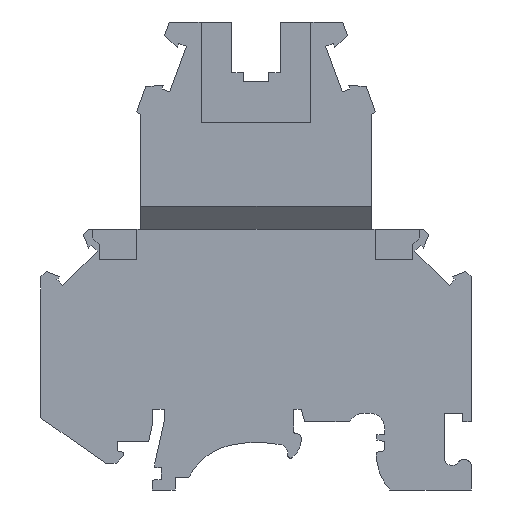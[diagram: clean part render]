
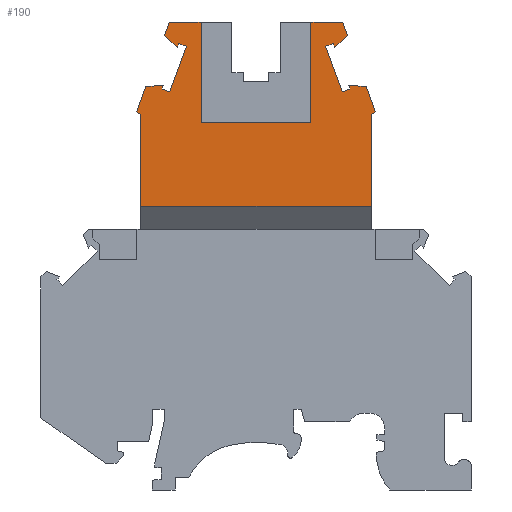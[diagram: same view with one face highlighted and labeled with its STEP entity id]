
A CAD part, left-side view. The second image highlights one B-rep face of the part: STEP entity #190.
In plain terms, the highlighted planar face has unit normal (-1, 0, 0).
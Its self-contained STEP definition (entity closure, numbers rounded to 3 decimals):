
#190=ADVANCED_FACE('',(#516),#517,.F.);
#516=FACE_OUTER_BOUND('',#934,.T.);
#517=PLANE('',#935);
#934=EDGE_LOOP('',(#2161,#2162,#2163,#2164,#2165,#2166,#2167,#2168,#2169,#2170,#2171,#2172,#2173,#2174,#2175,#2176,#2177,#2178,#2179,#2180,#2181,#2182,#2183,#2184,#2185,#2186,#2187,#2188));
#935=AXIS2_PLACEMENT_3D('',#2189,#2190,#2191);
#2161=ORIENTED_EDGE('',*,*,#3215,.T.);
#2162=ORIENTED_EDGE('',*,*,#3273,.F.);
#2163=ORIENTED_EDGE('',*,*,#3289,.F.);
#2164=ORIENTED_EDGE('',*,*,#3359,.F.);
#2165=ORIENTED_EDGE('',*,*,#3360,.F.);
#2166=ORIENTED_EDGE('',*,*,#3361,.F.);
#2167=ORIENTED_EDGE('',*,*,#3362,.F.);
#2168=ORIENTED_EDGE('',*,*,#3363,.F.);
#2169=ORIENTED_EDGE('',*,*,#3364,.F.);
#2170=ORIENTED_EDGE('',*,*,#3365,.F.);
#2171=ORIENTED_EDGE('',*,*,#3366,.F.);
#2172=ORIENTED_EDGE('',*,*,#3367,.F.);
#2173=ORIENTED_EDGE('',*,*,#3334,.F.);
#2174=ORIENTED_EDGE('',*,*,#3368,.T.);
#2175=ORIENTED_EDGE('',*,*,#3304,.T.);
#2176=ORIENTED_EDGE('',*,*,#3307,.T.);
#2177=ORIENTED_EDGE('',*,*,#3138,.F.);
#2178=ORIENTED_EDGE('',*,*,#3369,.F.);
#2179=ORIENTED_EDGE('',*,*,#3370,.F.);
#2180=ORIENTED_EDGE('',*,*,#3115,.F.);
#2181=ORIENTED_EDGE('',*,*,#3237,.F.);
#2182=ORIENTED_EDGE('',*,*,#3184,.F.);
#2183=ORIENTED_EDGE('',*,*,#3197,.F.);
#2184=ORIENTED_EDGE('',*,*,#3352,.F.);
#2185=ORIENTED_EDGE('',*,*,#3349,.F.);
#2186=ORIENTED_EDGE('',*,*,#3346,.F.);
#2187=ORIENTED_EDGE('',*,*,#3371,.F.);
#2188=ORIENTED_EDGE('',*,*,#3372,.F.);
#2189=CARTESIAN_POINT('',(0.0,112.483,-131.99));
#2190=DIRECTION('',(1.0,0.0,0.0));
#2191=DIRECTION('',(0.0,1.0,0.0));
#3115=EDGE_CURVE('',#3883,#3885,#3886,.T.);
#3138=EDGE_CURVE('',#3916,#3919,#3920,.T.);
#3184=EDGE_CURVE('',#3993,#3995,#3996,.T.);
#3197=EDGE_CURVE('',#4018,#3993,#4020,.T.);
#3215=EDGE_CURVE('',#4048,#4049,#4050,.T.);
#3237=EDGE_CURVE('',#3995,#3883,#4082,.T.);
#3273=EDGE_CURVE('',#4136,#4049,#4138,.T.);
#3289=EDGE_CURVE('',#4163,#4136,#4166,.T.);
#3304=EDGE_CURVE('',#4191,#4192,#4193,.T.);
#3307=EDGE_CURVE('',#4192,#3919,#4196,.T.);
#3334=EDGE_CURVE('',#4239,#4241,#4242,.T.);
#3346=EDGE_CURVE('',#4259,#4262,#4263,.T.);
#3349=EDGE_CURVE('',#4262,#4267,#4268,.T.);
#3352=EDGE_CURVE('',#4267,#4018,#4272,.T.);
#3359=EDGE_CURVE('',#4281,#4163,#4282,.T.);
#3360=EDGE_CURVE('',#4283,#4281,#4284,.T.);
#3361=EDGE_CURVE('',#4285,#4283,#4286,.T.);
#3362=EDGE_CURVE('',#4287,#4285,#4288,.T.);
#3363=EDGE_CURVE('',#4289,#4287,#4290,.T.);
#3364=EDGE_CURVE('',#4291,#4289,#4292,.T.);
#3365=EDGE_CURVE('',#4293,#4291,#4294,.T.);
#3366=EDGE_CURVE('',#4295,#4293,#4296,.T.);
#3367=EDGE_CURVE('',#4241,#4295,#4297,.T.);
#3368=EDGE_CURVE('',#4239,#4191,#4298,.T.);
#3369=EDGE_CURVE('',#4299,#3916,#4300,.T.);
#3370=EDGE_CURVE('',#3885,#4299,#4301,.T.);
#3371=EDGE_CURVE('',#4302,#4259,#4303,.T.);
#3372=EDGE_CURVE('',#4048,#4302,#4304,.T.);
#3883=VERTEX_POINT('',#5030);
#3885=VERTEX_POINT('',#5033);
#3886=LINE('',#5034,#5035);
#3916=VERTEX_POINT('',#5086);
#3919=VERTEX_POINT('',#5090);
#3920=LINE('',#5091,#5092);
#3993=VERTEX_POINT('',#5198);
#3995=VERTEX_POINT('',#5201);
#3996=LINE('',#5202,#5203);
#4018=VERTEX_POINT('',#5233);
#4020=LINE('',#5236,#5237);
#4048=VERTEX_POINT('',#5282);
#4049=VERTEX_POINT('',#5283);
#4050=LINE('',#5284,#5285);
#4082=LINE('',#5332,#5333);
#4136=VERTEX_POINT('',#5421);
#4138=LINE('',#5424,#5425);
#4163=VERTEX_POINT('',#5464);
#4166=LINE('',#5468,#5469);
#4191=VERTEX_POINT('',#5508);
#4192=VERTEX_POINT('',#5509);
#4193=LINE('',#5510,#5511);
#4196=LINE('',#5516,#5517);
#4239=VERTEX_POINT('',#5585);
#4241=VERTEX_POINT('',#5588);
#4242=LINE('',#5589,#5590);
#4259=VERTEX_POINT('',#5613);
#4262=VERTEX_POINT('',#5617);
#4263=LINE('',#5618,#5619);
#4267=VERTEX_POINT('',#5625);
#4268=LINE('',#5626,#5627);
#4272=LINE('',#5633,#5634);
#4281=VERTEX_POINT('',#5648);
#4282=LINE('',#5649,#5650);
#4283=VERTEX_POINT('',#5651);
#4284=LINE('',#5652,#5653);
#4285=VERTEX_POINT('',#5654);
#4286=LINE('',#5655,#5656);
#4287=VERTEX_POINT('',#5657);
#4288=LINE('',#5658,#5659);
#4289=VERTEX_POINT('',#5660);
#4290=LINE('',#5661,#5662);
#4291=VERTEX_POINT('',#5663);
#4292=LINE('',#5664,#5665);
#4293=VERTEX_POINT('',#5666);
#4294=LINE('',#5667,#5668);
#4295=VERTEX_POINT('',#5669);
#4296=LINE('',#5670,#5671);
#4297=LINE('',#5672,#5673);
#4298=LINE('',#5674,#5675);
#4299=VERTEX_POINT('',#5676);
#4300=LINE('',#5677,#5678);
#4301=LINE('',#5679,#5680);
#4302=VERTEX_POINT('',#5681);
#4303=LINE('',#5682,#5683);
#4304=LINE('',#5684,#5685);
#5030=CARTESIAN_POINT('',(0.0,38.064,58.105));
#5033=CARTESIAN_POINT('',(0.0,38.244,57.609));
#5034=CARTESIAN_POINT('',(0.0,56.774,6.7));
#5035=VECTOR('',#6236,1.0);
#5086=CARTESIAN_POINT('',(0.0,39.287,60.9));
#5090=CARTESIAN_POINT('',(0.0,35.15,60.9));
#5091=CARTESIAN_POINT('',(0.0,28.,60.9));
#5092=VECTOR('',#6259,1.0);
#5198=CARTESIAN_POINT('',(0.0,39.222,51.795));
#5201=CARTESIAN_POINT('',(0.0,37.058,57.739));
#5202=CARTESIAN_POINT('',(0.0,55.635,6.7));
#5203=VECTOR('',#6327,1.0);
#5233=CARTESIAN_POINT('',(0.0,40.227,52.161));
#5236=CARTESIAN_POINT('',(0.0,28.,47.711));
#5237=VECTOR('',#6346,1.0);
#5282=CARTESIAN_POINT('',(0.0,43.,36.95));
#5283=CARTESIAN_POINT('',(0.0,13.,36.95));
#5284=CARTESIAN_POINT('',(0.0,28.,36.95));
#5285=VECTOR('',#6364,1.0);
#5332=CARTESIAN_POINT('',(0.0,28.,54.442));
#5333=VECTOR('',#6398,1.0);
#5421=CARTESIAN_POINT('',(0.0,13.,48.831));
#5424=CARTESIAN_POINT('',(0.0,13.,6.7));
#5425=VECTOR('',#6434,1.0);
#5464=CARTESIAN_POINT('',(0.0,12.472,49.246));
#5468=CARTESIAN_POINT('',(0.0,28.,37.064));
#5469=VECTOR('',#6450,1.0);
#5508=CARTESIAN_POINT('',(0.0,20.85,47.812));
#5509=CARTESIAN_POINT('',(0.0,35.15,47.812));
#5510=CARTESIAN_POINT('',(0.0,28.,47.812));
#5511=VECTOR('',#6465,1.0);
#5516=CARTESIAN_POINT('',(0.0,35.15,6.7));
#5517=VECTOR('',#6468,1.0);
#5585=CARTESIAN_POINT('',(0.0,20.85,60.9));
#5588=CARTESIAN_POINT('',(0.0,16.713,60.9));
#5589=CARTESIAN_POINT('',(0.0,28.,60.9));
#5590=VECTOR('',#6495,1.0);
#5613=CARTESIAN_POINT('',(0.0,43.528,49.246));
#5617=CARTESIAN_POINT('',(0.0,42.341,52.508));
#5618=CARTESIAN_POINT('',(0.0,59.014,6.7));
#5619=VECTOR('',#6515,1.0);
#5625=CARTESIAN_POINT('',(0.0,40.047,52.657));
#5626=CARTESIAN_POINT('',(0.0,28.,53.441));
#5627=VECTOR('',#6518,1.0);
#5633=CARTESIAN_POINT('',(0.0,56.774,6.7));
#5634=VECTOR('',#6521,1.0);
#5648=CARTESIAN_POINT('',(0.0,13.659,52.508));
#5649=CARTESIAN_POINT('',(0.0,-3.014,6.7));
#5650=VECTOR('',#6530,1.0);
#5651=CARTESIAN_POINT('',(0.0,15.953,52.657));
#5652=CARTESIAN_POINT('',(0.0,28.,53.441));
#5653=VECTOR('',#6531,1.0);
#5654=CARTESIAN_POINT('',(0.0,15.773,52.161));
#5655=CARTESIAN_POINT('',(0.0,-0.774,6.7));
#5656=VECTOR('',#6532,1.0);
#5657=CARTESIAN_POINT('',(0.0,16.778,51.795));
#5658=CARTESIAN_POINT('',(0.0,28.,47.711));
#5659=VECTOR('',#6533,1.0);
#5660=CARTESIAN_POINT('',(0.0,18.942,57.739));
#5661=CARTESIAN_POINT('',(0.0,0.365,6.7));
#5662=VECTOR('',#6534,1.0);
#5663=CARTESIAN_POINT('',(0.0,17.936,58.105));
#5664=CARTESIAN_POINT('',(0.0,28.,54.442));
#5665=VECTOR('',#6535,1.0);
#5666=CARTESIAN_POINT('',(0.0,17.756,57.609));
#5667=CARTESIAN_POINT('',(0.0,-0.774,6.7));
#5668=VECTOR('',#6536,1.0);
#5669=CARTESIAN_POINT('',(0.0,16.094,59.198));
#5670=CARTESIAN_POINT('',(0.0,28.,47.811));
#5671=VECTOR('',#6537,1.0);
#5672=CARTESIAN_POINT('',(0.0,-3.014,6.7));
#5673=VECTOR('',#6538,1.0);
#5674=CARTESIAN_POINT('',(0.0,20.85,6.7));
#5675=VECTOR('',#6539,1.0);
#5676=CARTESIAN_POINT('',(0.0,39.906,59.198));
#5677=CARTESIAN_POINT('',(0.0,59.014,6.7));
#5678=VECTOR('',#6540,1.0);
#5679=CARTESIAN_POINT('',(0.0,28.,47.811));
#5680=VECTOR('',#6541,1.0);
#5681=CARTESIAN_POINT('',(0.0,43.,48.831));
#5682=CARTESIAN_POINT('',(0.0,28.,37.064));
#5683=VECTOR('',#6542,1.0);
#5684=CARTESIAN_POINT('',(0.0,43.,6.7));
#5685=VECTOR('',#6543,1.0);
#6236=DIRECTION('',(0.0,0.342,-0.94));
#6259=DIRECTION('',(0.0,-1.0,0.0));
#6327=DIRECTION('',(0.0,-0.342,0.94));
#6346=DIRECTION('',(0.0,-0.94,-0.342));
#6364=DIRECTION('',(0.0,-1.0,0.0));
#6398=DIRECTION('',(0.0,0.94,0.342));
#6434=DIRECTION('',(0.0,0.0,-1.0));
#6450=DIRECTION('',(0.0,0.787,-0.617));
#6465=DIRECTION('',(0.0,1.0,0.0));
#6468=DIRECTION('',(0.0,0.0,1.0));
#6495=DIRECTION('',(0.0,-1.0,0.0));
#6515=DIRECTION('',(0.0,-0.342,0.94));
#6518=DIRECTION('',(0.0,-0.998,0.065));
#6521=DIRECTION('',(0.0,0.342,-0.94));
#6530=DIRECTION('',(0.0,-0.342,-0.94));
#6531=DIRECTION('',(0.0,-0.998,-0.065));
#6532=DIRECTION('',(0.0,0.342,0.94));
#6533=DIRECTION('',(0.0,-0.94,0.342));
#6534=DIRECTION('',(0.0,-0.342,-0.94));
#6535=DIRECTION('',(0.0,0.94,-0.342));
#6536=DIRECTION('',(0.0,0.342,0.94));
#6537=DIRECTION('',(0.0,0.723,-0.691));
#6538=DIRECTION('',(0.0,-0.342,-0.94));
#6539=DIRECTION('',(0.0,0.0,-1.0));
#6540=DIRECTION('',(0.0,-0.342,0.94));
#6541=DIRECTION('',(0.0,0.723,0.691));
#6542=DIRECTION('',(0.0,0.787,0.617));
#6543=DIRECTION('',(0.0,0.0,1.0));
